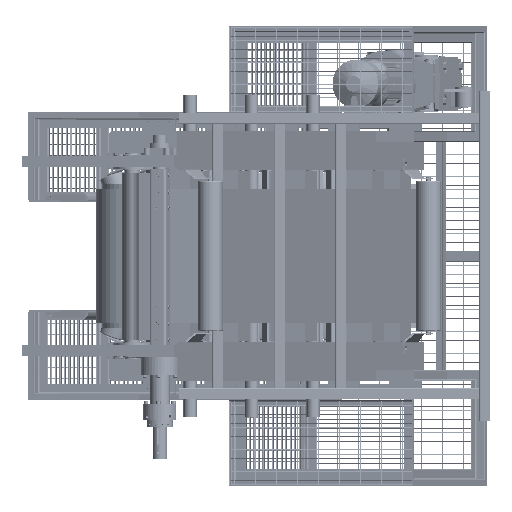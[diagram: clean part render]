
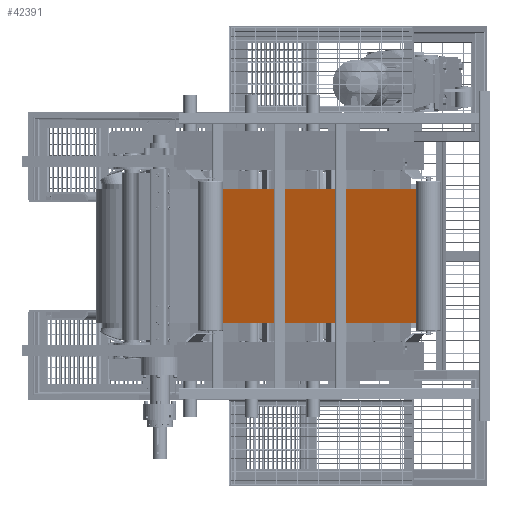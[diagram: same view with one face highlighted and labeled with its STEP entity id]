
A CAD part, left-side view. The second image highlights one B-rep face of the part: STEP entity #42391.
In plain terms, the highlighted planar face has unit normal (-0.292, -0.956, 0) as drawn and (0, -1, 0) by its records, which use the part's own axes.
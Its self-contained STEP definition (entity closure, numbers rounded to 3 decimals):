
#35253=PLANE('',#152051);
#42391=ADVANCED_FACE('',(#51740),#35253,.T.);
#51740=FACE_OUTER_BOUND('',#59408,.T.);
#59408=EDGE_LOOP('',(#108974,#108975,#108976,#108977));
#67986=LINE('',#255527,#76946);
#67987=LINE('',#255529,#76947);
#67997=LINE('',#255560,#76957);
#68000=LINE('',#255567,#76960);
#76946=VECTOR('',#185303,1.);
#76947=VECTOR('',#185306,1.);
#76957=VECTOR('',#185328,1.);
#76960=VECTOR('',#185335,1.);
#108974=ORIENTED_EDGE('',*,*,#135930,.T.);
#108975=ORIENTED_EDGE('',*,*,#135946,.T.);
#108976=ORIENTED_EDGE('',*,*,#135950,.T.);
#108977=ORIENTED_EDGE('',*,*,#135931,.T.);
#119873=VERTEX_POINT('',#255522);
#119875=VERTEX_POINT('',#255526);
#119876=VERTEX_POINT('',#255530);
#119890=VERTEX_POINT('',#255559);
#135930=EDGE_CURVE('',#119873,#119875,#67986,.T.);
#135931=EDGE_CURVE('',#119876,#119873,#67987,.T.);
#135946=EDGE_CURVE('',#119875,#119890,#67997,.T.);
#135950=EDGE_CURVE('',#119890,#119876,#68000,.T.);
#152051=AXIS2_PLACEMENT_3D('',#255568,#185336,#185337);
#185303=DIRECTION('',(0.,0.,1.));
#185306=DIRECTION('',(1.,0.,0.));
#185328=DIRECTION('',(-1.,0.,0.));
#185335=DIRECTION('',(0.,0.,-1.));
#185336=DIRECTION('',(0.,-1.,0.));
#185337=DIRECTION('',(0.,0.,1.));
#255522=CARTESIAN_POINT('',(2000.,-117.5,-305.));
#255526=CARTESIAN_POINT('',(2000.,-117.5,305.));
#255527=CARTESIAN_POINT('',(2000.,-117.5,0.));
#255529=CARTESIAN_POINT('',(246.615,-117.5,-305.));
#255530=CARTESIAN_POINT('',(-1700.271,-117.5,-305.));
#255559=CARTESIAN_POINT('',(-1700.271,-117.5,305.));
#255560=CARTESIAN_POINT('',(246.615,-117.5,305.));
#255567=CARTESIAN_POINT('',(-1700.271,-117.5,0.));
#255568=CARTESIAN_POINT('',(-1700.271,-117.5,305.));
